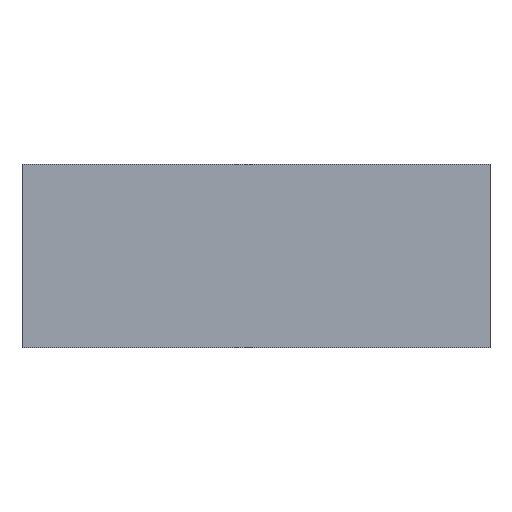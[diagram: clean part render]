
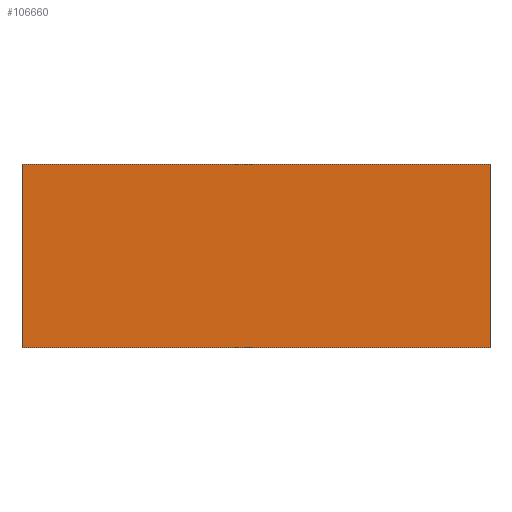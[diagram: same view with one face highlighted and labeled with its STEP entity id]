
A CAD part, front view. The second image highlights one B-rep face of the part: STEP entity #106660.
In plain terms, the highlighted planar face has unit normal (0, -1, 0).
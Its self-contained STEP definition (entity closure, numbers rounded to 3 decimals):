
#810=CARTESIAN_POINT('',(137.312,180.943,7.747));
#820=DIRECTION('',(-1.,0.,0.));
#830=VECTOR('',#820,1.);
#840=LINE('',#810,#830);
#850=CARTESIAN_POINT('',(-81.103,180.943,7.747));
#860=VERTEX_POINT('',#850);
#870=CARTESIAN_POINT('',(-116.028,180.943,7.747));
#880=VERTEX_POINT('',#870);
#890=EDGE_CURVE('',#860,#880,#840,.T.);
#3160=CARTESIAN_POINT('',(-116.028,180.943,21.463));
#3170=VERTEX_POINT('',#3160);
#3320=CARTESIAN_POINT('',(-81.103,180.943,21.463));
#3330=VERTEX_POINT('',#3320);
#3360=CARTESIAN_POINT('',(137.312,180.943,21.463));
#3370=DIRECTION('',(1.,0.,0.));
#3380=VECTOR('',#3370,1.);
#3390=LINE('',#3360,#3380);
#3400=EDGE_CURVE('',#3170,#3330,#3390,.T.);
#14810=CARTESIAN_POINT('',(-116.028,180.943,3.81));
#14820=DIRECTION('',(0.,0.,1.));
#14830=VECTOR('',#14820,1.);
#14840=LINE('',#14810,#14830);
#14850=EDGE_CURVE('',#880,#3170,#14840,.T.);
#15360=CARTESIAN_POINT('',(-81.103,180.943,3.81));
#15370=DIRECTION('',(0.,0.,-1.));
#15380=VECTOR('',#15370,1.);
#15390=LINE('',#15360,#15380);
#15400=EDGE_CURVE('',#3330,#860,#15390,.T.);
#106550=CARTESIAN_POINT('',(-81.103,180.943,3.81));
#106560=DIRECTION('',(0.,-1.,0.));
#106570=DIRECTION('',(1.,0.,0.));
#106580=AXIS2_PLACEMENT_3D('',#106550,#106560,#106570);
#106590=PLANE('',#106580);
#106600=ORIENTED_EDGE('',*,*,#14850,.F.);
#106610=ORIENTED_EDGE('',*,*,#3400,.F.);
#106620=ORIENTED_EDGE('',*,*,#15400,.F.);
#106630=ORIENTED_EDGE('',*,*,#890,.F.);
#106640=EDGE_LOOP('',(#106630,#106620,#106610,#106600));
#106650=FACE_OUTER_BOUND('',#106640,.T.);
#106660=ADVANCED_FACE('',(#106650),#106590,.T.);
